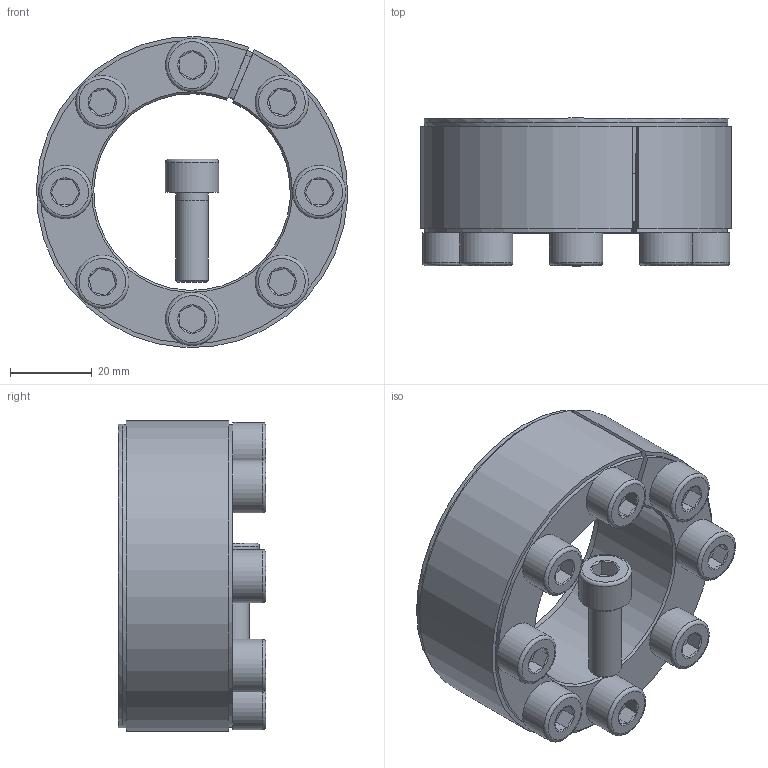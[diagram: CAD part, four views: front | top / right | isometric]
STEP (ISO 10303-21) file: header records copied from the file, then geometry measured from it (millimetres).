
FILE_DESCRIPTION( ( 'Unknown' ), '1' );
FILE_NAME( 'C:/Dokumente und Einstellungen/Sven/Desktop/homepage/cad - homepage/KBS52/KBS 52 - 48 x 76.stp', 'Unknown', ( 'Unknown' ), ( 'Unknown' ), 'XStep 1.0', 'Unknown', ' ' );
FILE_SCHEMA( ( 'automotive_design' ) );
Length unit declared in the file: millimetre
Products named in the file (3): Assem1; KBS 52 - 48 x 76; ISO EN DIN 4762 M8x22
Bounding box: 75.92 x 36 x 75.95 mm (x, y, z)
Volume: 146166.7 mm3; surface area: 53861.4 mm2
Topology: 11 solids, 11 shells, 281 faces, 553 edges, 328 vertices
Faces by surface type: plane 134, cone 69, cylinder 60, torus 18
Full cylindrical faces by diameter (mm): 7 x9, 8 x34, 13 x9, 74.175 x2
Entity records: 1717 total; most frequent: CARTESIAN_POINT 283, DIRECTION 263, ORIENTED_EDGE 196, AXIS2_PLACEMENT_3D 110, EDGE_CURVE 98, EDGE_LOOP 92, VERTEX_POINT 70, FACE_OUTER_BOUND 68
